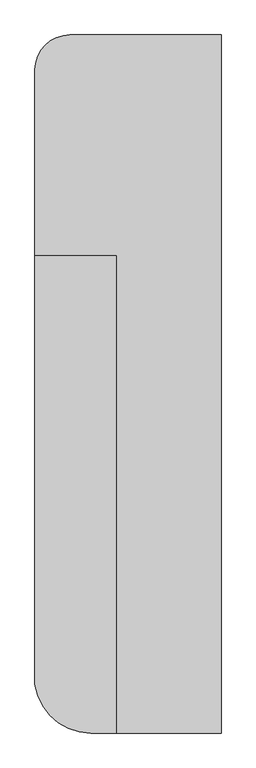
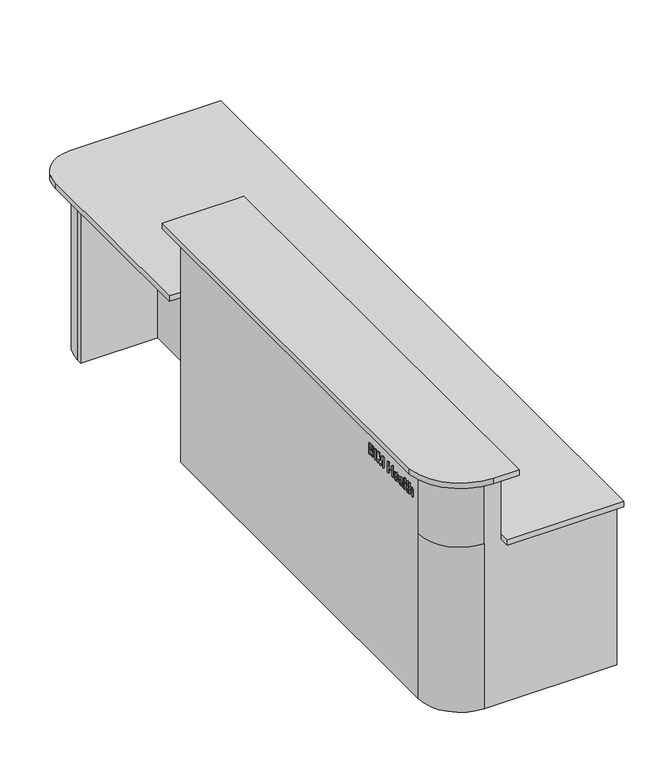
"""IFC4 building model written with IfcOpenShell, lengths in millimetres: furniture geometry, BIMHealth-Desk_Nurses_Station-LOD2A-v1 : BIMHealth-Desk_Nurses_Station-LOD2A-v1."""

from ifc_helpers import new_model, si_unit, point, frame, frame_2d, origin, place, context, project, spatial, polyline, circle_curve, trimmed, segment, composite_curve, outline, extrude, source, transform, mapped, element, save
from ifc_brep_helpers import plane_surface, cylinder_surface, revolved_surface, advanced_brep


def furniture_40786aaf(model_context):
    return source(origin(), model_context, "Body", "SolidModel", [
        advanced_brep(
        [(400.0, 1450.0, 750.0), (-170.0, 1450.0, 750.0), (-350.0, 1270.0, 750.0), (-350.0, 1245.0, 750.0), (-20.0, 1245.0, 750.0), (-20.0, 500.0, 750.0), (-100.0, 500.0, 750.0), (-100.0, 480.0, 750.0), (0.0, 480.0, 750.0), (0.0, 1265.0, 750.0), (-325.0, 1265.0, 750.0), (-175.0, 1425.0, 750.0), (400.0, 1425.0, 750.0), (400.0, -1450.0, 750.0), (400.0, -1425.0, 750.0), (-100.0, -1425.0, 750.0), (-100.0, -1450.0, 750.0), (400.0, 1450.0, 0.0), (400.0, 1425.0, 0.0), (-175.0, 1425.0, 0.0), (-325.0, 1265.0, 0.0), (0.0, 1265.0, 0.0), (0.0, 480.0, 0.0), (-325.0, 480.0, 0.0), (-325.0, -1265.0, 0.0), (-175.0, -1425.0, 0.0), (400.0, -1425.0, 0.0), (400.0, -1450.0, 0.0), (-170.0, -1450.0, 0.0), (-350.0, -1270.0, 0.0), (-350.0, 500.0, 0.0), (-20.0, 500.0, 0.0), (-20.0, 1245.0, 0.0), (-350.0, 1245.0, 0.0), (-350.0, 1270.0, 0.0), (-170.0, 1450.0, 0.0), (-170.0, -1450.0, 750.0), (-350.0, -1270.0, 750.0), (-100.0, -1450.0, 1050.0), (-170.0, -1450.0, 1050.0), (-175.0, -1425.0, 750.0), (-325.0, -1265.0, 750.0), (-325.0, 480.0, 1050.0), (-325.0, -1200.0, 1050.0), (-325.0, -1200.0, 750.0), (-350.0, 500.0, 1050.0), (-350.0, -1270.0, 1050.0), (-100.0, -1200.0, 1050.0), (-100.0, 480.0, 1050.0), (-100.0, 500.0, 1050.0), (-100.0, -1200.0, 750.0)],
        [
            (0, 1),
            (1, 2, circle_curve(frame((-170.0, 1270.0, 750.0), z_axis=(0.0, 0.0, 1.0), x_axis=(1.0, 0.0, 0.0)), 180.0)),
            (2, 3),
            (3, 4),
            (4, 5),
            (5, 6),
            (6, 7),
            (7, 8),
            (8, 9),
            (9, 10),
            (10, 11, circle_curve(frame((-164.6666667, 1265.0, 750.0), z_axis=(0.0, 0.0, -1.0), x_axis=(1.0, 0.0, 0.0)), 160.3333333)),
            (11, 12),
            (12, 0),
            (13, 14),
            (14, 15),
            (15, 16),
            (16, 13),
            (17, 18),
            (18, 19),
            (19, 20, circle_curve(frame((-164.6666667, 1265.0, 0.0), z_axis=(0.0, 0.0, 1.0), x_axis=(1.0, 0.0, 0.0)), 160.3333333)),
            (20, 21),
            (21, 22),
            (22, 23),
            (23, 24),
            (24, 25, circle_curve(frame((-164.6666667, -1265.0, 0.0), z_axis=(0.0, 0.0, 1.0), x_axis=(1.0, 0.0, 0.0)), 160.3333333)),
            (25, 26),
            (26, 27),
            (27, 28),
            (28, 29, circle_curve(frame((-170.0, -1270.0, 0.0), z_axis=(0.0, 0.0, -1.0), x_axis=(1.0, 0.0, 0.0)), 180.0)),
            (29, 30),
            (30, 31),
            (31, 32),
            (32, 33),
            (33, 34),
            (34, 35, circle_curve(frame((-170.0, 1270.0, 0.0), z_axis=(0.0, 0.0, -1.0), x_axis=(1.0, 0.0, 0.0)), 180.0)),
            (35, 17),
            (0, 17),
            (35, 1),
            (34, 2),
            (28, 36),
            (36, 37, circle_curve(frame((-170.0, -1270.0, 750.0), z_axis=(0.0, 0.0, -1.0), x_axis=(1.0, 0.0, 0.0)), 180.0)),
            (37, 29),
            (27, 13),
            (16, 38),
            (38, 39),
            (39, 36),
            (26, 14),
            (25, 40),
            (40, 15),
            (24, 41),
            (41, 40, circle_curve(frame((-164.6666667, -1265.0, 750.0), z_axis=(0.0, 0.0, 1.0), x_axis=(1.0, 0.0, 0.0)), 160.3333333)),
            (42, 43),
            (43, 44),
            (44, 41),
            (23, 42),
            (10, 20),
            (19, 11),
            (18, 12),
            (45, 46),
            (46, 39, circle_curve(frame((-170.0, -1270.0, 1050.0), z_axis=(0.0, 0.0, 1.0), x_axis=(1.0, 0.0, 0.0)), 180.0)),
            (38, 47),
            (47, 43),
            (42, 48),
            (48, 49),
            (49, 45),
            (44, 50),
            (50, 15),
            (46, 37),
            (45, 30),
            (33, 3),
            (32, 4),
            (31, 5),
            (49, 6),
            (22, 8),
            (7, 48),
            (21, 9),
            (50, 47),
        ],
        [
            plane_surface(frame((-290.0, 1450.0, 750.0), z_axis=(0.0, 0.0, 1.0), x_axis=(-1.0, 0.0, 0.0))),
            plane_surface(frame((-290.0, 1450.0, 0.0), z_axis=(0.0, 0.0, -1.0), x_axis=(1.0, 0.0, 0.0))),
            plane_surface(frame((400.0, 1450.0, 750.0), z_axis=(0.0, 1.0, 0.0), x_axis=(0.0, 0.0, -1.0))),
            cylinder_surface(frame((-170.0, 1270.0, 0.0), z_axis=(0.0, 0.0, 1.0), x_axis=(1.0, 0.0, 0.0)), 180.0),
            cylinder_surface(frame((-170.0, -1270.0, 0.0), z_axis=(0.0, 0.0, 1.0), x_axis=(1.0, 0.0, 0.0)), 180.0),
            plane_surface(frame((-170.0, -1450.0, 750.0), z_axis=(0.0, -1.0, 0.0), x_axis=(0.0, 0.0, -1.0))),
            plane_surface(frame((400.0, -1450.0, 750.0), z_axis=(1.0, 0.0, 0.0), x_axis=(0.0, 0.0, -1.0))),
            plane_surface(frame((400.0, -1425.0, 750.0), z_axis=(0.0, 1.0, 0.0), x_axis=(0.0, 0.0, -1.0))),
            revolved_surface(polyline([(-4.333333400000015, -1265.0, 0.0), (-4.333333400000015, -1265.0, 750.0)]), (-164.6666667, -1265.0, 0.0), (0.0, 0.0, -1.0)),
            plane_surface(frame((-325.0, -1265.0, 750.0), z_axis=(1.0, 0.0, 0.0), x_axis=(0.0, 0.0, -1.0))),
            revolved_surface(polyline([(-4.333333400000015, 1265.0, 0.0), (-4.333333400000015, 1265.0, 750.0)]), (-164.6666667, 1265.0, 0.0), (0.0, 0.0, -1.0)),
            plane_surface(frame((-175.0, 1425.0, 750.0), z_axis=(0.0, -1.0, 0.0), x_axis=(0.0, 0.0, -1.0))),
            plane_surface(frame((400.0, 1425.0, 750.0), z_axis=(1.0, 0.0, 0.0), x_axis=(0.0, 0.0, -1.0))),
            plane_surface(frame((-350.0, 500.0, 1050.0), z_axis=(0.0, 0.0, 1.0), x_axis=(0.0, -1.0, 0.0))),
            plane_surface(frame((-350.0, 500.0, 750.0), z_axis=(0.0, 0.0, -1.0), x_axis=(0.0, 1.0, 0.0))),
            cylinder_surface(frame((-170.0, -1270.0, 750.0), z_axis=(0.0, 0.0, 1.0), x_axis=(1.0, 0.0, 0.0)), 180.0),
            plane_surface(frame((-350.0, 500.0, 750.0), z_axis=(-1.0, 0.0, 0.0), x_axis=(0.0, 0.0, -1.0))),
            plane_surface(frame((-350.0, 1270.0, 750.0), z_axis=(-1.0, 0.0, 0.0), x_axis=(0.0, 0.0, -1.0))),
            plane_surface(frame((-350.0, 1245.0, 750.0), z_axis=(0.0, -1.0, 0.0), x_axis=(0.0, 0.0, -1.0))),
            plane_surface(frame((-20.0, 1245.0, 750.0), z_axis=(-1.0, 0.0, 0.0), x_axis=(0.0, 0.0, -1.0))),
            plane_surface(frame((-20.0, 500.0, 750.0), z_axis=(0.0, 1.0, 0.0), x_axis=(0.0, 0.0, -1.0))),
            plane_surface(frame((-325.0, 480.0, 750.0), z_axis=(0.0, -1.0, 0.0), x_axis=(0.0, 0.0, -1.0))),
            plane_surface(frame((0.0, 480.0, 750.0), z_axis=(1.0, 0.0, 0.0), x_axis=(0.0, 0.0, -1.0))),
            plane_surface(frame((0.0, 1265.0, 750.0), z_axis=(0.0, 1.0, 0.0), x_axis=(0.0, 0.0, -1.0))),
            plane_surface(frame((-100.0, -1450.0, 1050.0), z_axis=(1.0, 0.0, 0.0), x_axis=(0.0, 0.0, -1.0))),
            plane_surface(frame((-100.0, -1200.0, 1050.0), z_axis=(0.0, 1.0, 0.0), x_axis=(0.0, 0.0, -1.0))),
            plane_surface(frame((-100.0, 480.0, 1050.0), z_axis=(1.0, 0.0, 0.0), x_axis=(0.0, 0.0, -1.0))),
        ],
        [
            (0, [[1, 2, 3, 4, 5, 6, 7, 8, 9, 10, 11, 12, 13]]),
            (0, [[14, 15, 16, 17]]),
            (1, [[18, 19, 20, 21, 22, 23, 24, 25, 26, 27, 28, 29, 30, 31, 32, 33, 34, 35, 36]]),
            (2, [[-1, 37, -36, 38]]),
            (3, [[-2, -38, -35, 39]]),
            (4, [[-29, 40, 41, 42]]),
            (5, [[-28, 43, -17, 44, 45, 46, -40]]),
            (6, [[-14, -43, -27, 47]]),
            (7, [[-26, 48, 49, -15, -47]]),
            (8, [[-25, 50, 51, -48]]),
            (9, [[52, 53, 54, -50, -24, 55]]),
            (10, [[-11, 56, -20, 57]]),
            (11, [[-12, -57, -19, 58]]),
            (12, [[-13, -58, -18, -37]]),
            (13, [[59, 60, -45, 61, 62, -52, 63, 64, 65]]),
            (14, [[66, 67, -49, -51, -54]]),
            (15, [[-60, 68, -41, -46]]),
            (16, [[-30, -42, -68, -59, 69]]),
            (17, [[-3, -39, -34, 70]]),
            (18, [[-4, -70, -33, 71]]),
            (19, [[-5, -71, -32, 72]]),
            (20, [[-31, -69, -65, 73, -6, -72]]),
            (21, [[-55, -23, 74, -8, 75, -63]]),
            (22, [[-9, -74, -22, 76]]),
            (23, [[-10, -76, -21, -56]]),
            (24, [[-61, -44, -16, -67, 77]]),
            (25, [[-62, -77, -66, -53]]),
            (26, [[-64, -75, -7, -73]]),
        ],
    ),
        extrude(outline(polyline([(-907.3739492, 895.9796557), (-926.0157761, 895.9796557), (-933.9064011, 896.8270115), (-939.2609685, 899.3270115), (-942.8487088, 904.0385499), (-944.2970261, 910.6551365), (-942.1756319, 918.3113865), (-936.11193, 922.9027326), (-941.1059204, 927.2597038), (-942.7585646, 933.0109057), (-940.7934204, 939.3089826), (-935.3607281, 943.7621076), (-926.1600069, 945.2104249), (-907.3739492, 945.2104249), (-907.3739492, 895.9796557)]), holes=[polyline([(-913.5277954, 925.2104249), (-913.5277954, 939.0565788), (-923.9124108, 939.0565788), (-931.8210646, 938.4135499), (-935.3667377, 936.0397519), (-936.6047185, 932.0253288), (-935.2765935, 928.0169153), (-931.3282761, 925.7392711), (-924.7657761, 925.2104249), (-913.5277954, 925.2104249)]), polyline([(-913.5277954, 902.1335019), (-913.5277954, 919.0565788), (-925.5470261, 919.0565788), (-933.1491896, 918.2332615), (-936.9652954, 915.3786942), (-938.14318, 910.5950403), (-937.1395742, 906.4484057), (-934.5794781, 903.7140307), (-930.7152954, 902.3738865), (-926.1479877, 902.1335019), (-913.5277954, 902.1335019)])]), frame((-355.0, 0.0, 0.0), z_axis=(1.0, 0.0, 0.0), x_axis=(0.0, 1.0, 0.0)), (0.0, 0.0, 1.0), 5.0),
        extrude(outline(polyline([(-355.0, -959.6816415), (-355.0, -953.5277954), (-350.0, -953.5277954), (-350.0, -959.6816415), (-355.0, -959.6816415)])), frame((0.0, 0.0, 895.9796557), z_axis=(0.0, 0.0, 1.0), x_axis=(1.0, 0.0, 0.0)), (0.0, 0.0, 1.0), 49.2307692),
        extrude(outline(polyline([(-971.9893338, 895.9796557), (-978.14318, 895.9796557), (-978.14318, 939.0565788), (-990.5229877, 895.9796557), (-998.8523146, 895.9796557), (-1011.2201031, 939.0565788), (-1011.2201031, 895.9796557), (-1017.3739492, 895.9796557), (-1017.3739492, 945.2104249), (-1006.7850069, 945.2104249), (-996.8811608, 911.1118672), (-994.6816415, 903.2633095), (-992.6383723, 910.5109057), (-982.5422185, 945.2104249), (-971.9893338, 945.2104249), (-971.9893338, 895.9796557)])), frame((-355.0, 0.0, 0.0), z_axis=(1.0, 0.0, 0.0), x_axis=(0.0, 1.0, 0.0)), (0.0, 0.0, 1.0), 5.0),
        extrude(outline(polyline([(-1047.3739492, 895.9796557), (-1053.5277954, 895.9796557), (-1053.5277954, 919.0565788), (-1079.6816415, 919.0565788), (-1079.6816415, 895.9796557), (-1085.8354877, 895.9796557), (-1085.8354877, 945.2104249), (-1079.6816415, 945.2104249), (-1079.6816415, 925.2104249), (-1053.5277954, 925.2104249), (-1053.5277954, 945.2104249), (-1047.3739492, 945.2104249), (-1047.3739492, 895.9796557)])), frame((-355.0, 0.0, 0.0), z_axis=(1.0, 0.0, 0.0), x_axis=(0.0, 1.0, 0.0)), (0.0, 0.0, 1.0), 5.0),
        extrude(outline(polyline([(-1121.1479877, 906.7488865), (-1117.1816415, 902.6503288), (-1111.1479877, 901.3642711), (-1103.221305, 904.1407134), (-1099.6816415, 912.1335019), (-1127.3378915, 912.1335019), (-1127.3739492, 913.7921557), (-1122.7044781, 927.8907134), (-1110.6792377, 932.9027326), (-1098.29943, 927.8786942), (-1093.5277954, 913.756098), (-1098.2513531, 900.084223), (-1111.0277954, 895.2104249), (-1121.5386127, 898.0349442), (-1127.1816415, 905.9796557), (-1121.1479877, 906.7488865)]), holes=[polyline([(-1099.6816415, 918.287348), (-1103.0770742, 924.4472038), (-1110.6551992, 926.7488865), (-1118.7561608, 923.8642711), (-1121.2201031, 918.287348), (-1099.6816415, 918.287348)])]), frame((-355.0, 0.0, 0.0), z_axis=(1.0, 0.0, 0.0), x_axis=(0.0, 1.0, 0.0)), (0.0, 0.0, 1.0), 5.0),
        extrude(outline(polyline([(-1156.6047185, 900.5950403), (-1158.14318, 895.9796557), (-1164.2970261, 895.9796557), (-1163.0710646, 901.1539345), (-1162.7585646, 911.8450403), (-1162.7585646, 919.5012903), (-1162.4580838, 924.8859057), (-1160.5710646, 929.0625884), (-1156.3583242, 931.8089826), (-1148.9003915, 932.9027326), (-1140.7814011, 931.6647519), (-1135.4208242, 928.1431172), (-1132.7585646, 922.1335019), (-1138.9124108, 921.3642711), (-1141.8811608, 925.5649922), (-1148.1071223, 926.7488865), (-1154.9100069, 924.9700403), (-1156.5686608, 919.0565788), (-1145.8955838, 916.9411942), (-1140.5710646, 916.0157134), (-1136.2621704, 913.9964826), (-1133.1672185, 910.4628288), (-1131.9893338, 905.5950403), (-1135.1083242, 898.131098), (-1144.0446223, 895.2104249), (-1150.6371704, 896.4243672), (-1156.6047185, 900.5950403)]), holes=[polyline([(-1156.6047185, 912.9027326), (-1156.5686608, 911.1599442), (-1155.5951031, 906.4003288), (-1151.58068, 902.8366269), (-1145.3547185, 901.3642711), (-1139.9761127, 902.6984057), (-1138.14318, 906.0277326), (-1138.9845261, 908.3955211), (-1141.3823627, 910.0181172), (-1146.6768338, 911.0157134), (-1156.6047185, 912.9027326)])]), frame((-355.0, 0.0, 0.0), z_axis=(1.0, 0.0, 0.0), x_axis=(0.0, 1.0, 0.0)), (0.0, 0.0, 1.0), 5.0),
        extrude(outline(polyline([(-355.0, -1177.3739492), (-355.0, -1171.2201031), (-350.0, -1171.2201031), (-350.0, -1177.3739492), (-355.0, -1177.3739492)])), frame((0.0, 0.0, 895.9796557), z_axis=(0.0, 0.0, 1.0), x_axis=(1.0, 0.0, 0.0)), (0.0, 0.0, 1.0), 49.2307692),
        extrude(outline(polyline([(-1199.6816415, 901.1118672), (-1197.0013531, 901.3642711), (-1193.8523146, 902.9027326), (-1193.5277954, 906.0758095), (-1193.5277954, 925.9796557), (-1199.6816415, 925.9796557), (-1199.6816415, 932.1335019), (-1193.5277954, 932.1335019), (-1193.5277954, 944.537348), (-1187.3739492, 940.9195595), (-1187.3739492, 932.1335019), (-1182.7585646, 932.1335019), (-1182.7585646, 925.9796557), (-1187.3739492, 925.9796557), (-1187.3739492, 905.8955211), (-1188.1191415, 898.912348), (-1190.6912569, 896.2320595), (-1195.8475069, 895.2104249), (-1200.4508723, 895.7993672), (-1199.6816415, 901.1118672)])), frame((-355.0, 0.0, 0.0), z_axis=(1.0, 0.0, 0.0), x_axis=(0.0, 1.0, 0.0)), (0.0, 0.0, 1.0), 5.0),
        extrude(outline(polyline([(-1205.8354877, 895.9796557), (-1211.9893338, 895.9796557), (-1211.9893338, 915.1863865), (-1212.9929396, 921.6647519), (-1216.3583242, 925.3786942), (-1221.4003915, 926.7488865), (-1226.9532761, 924.7176365), (-1228.9124108, 918.2272519), (-1228.9124108, 895.9796557), (-1235.0662569, 895.9796557), (-1235.0662569, 918.8642711), (-1233.8042377, 926.9532134), (-1229.6095261, 931.3222038), (-1222.6984685, 932.9027326), (-1211.9893338, 927.1094634), (-1211.9893338, 945.2104249), (-1205.8354877, 945.2104249), (-1205.8354877, 895.9796557)])), frame((-355.0, 0.0, 0.0), z_axis=(1.0, 0.0, 0.0), x_axis=(0.0, 1.0, 0.0)), (0.0, 0.0, 1.0), 5.0),
        extrude(outline(composite_curve([segment(polyline([(-100.0, 550.0), (-50.0, 550.0), (-50.0, -1500.0), (-160.0, -1500.0)]), True, "CONTINUOUS"), segment(trimmed(circle_curve(frame_2d((-160.0, -1257.8571429)), 242.1428571), [point((-160.0, -1500.0))], [point((-400.0, -1290.0))], False, "CARTESIAN"), True, "CONTINUOUS"), segment(polyline([(-400.0, -1290.0), (-400.0, 550.0), (-350.0, 550.0), (-100.0, 550.0)]), True, "CONTINUOUS")], self_intersect=False)), frame((0.0, 0.0, 1050.0), z_axis=(0.0, 0.0, 1.0), x_axis=(1.0, 0.0, 0.0)), (0.0, 0.0, 1.0), 25.0),
        extrude(outline(composite_curve([segment(polyline([(400.0, -1450.0), (400.0, -1500.0), (-100.0, -1500.0), (-100.0, -1425.0), (-165.0, -1425.0)]), True, "CONTINUOUS"), segment(trimmed(circle_curve(frame_2d((-165.0, -1265.0)), 160.0), [point((-165.0, -1425.0))], [point((-325.0, -1265.0))], False, "CARTESIAN"), True, "CONTINUOUS"), segment(polyline([(-325.0, -1265.0), (-325.0, 480.0), (-100.0, 480.0), (-100.0, 500.0), (-350.0, 500.0), (-400.0, 500.0), (-400.0, 1350.0)]), True, "CONTINUOUS"), segment(trimmed(circle_curve(frame_2d((-250.0, 1350.0)), 150.0), [point((-400.0, 1350.0))], [point((-250.0, 1500.0))], False, "CARTESIAN"), True, "CONTINUOUS"), segment(polyline([(-250.0, 1500.0), (400.0, 1500.0), (400.0, -1450.0)]), True, "CONTINUOUS")], self_intersect=False)), frame((0.0, 0.0, 750.0), z_axis=(0.0, 0.0, 1.0), x_axis=(1.0, 0.0, 0.0)), (0.0, 0.0, 1.0), 25.0),
    ])


if __name__ == "__main__":
    model = new_model("IFC4")
    model_context = context("Model", 3, world=origin())
    ifc_project = project(units=[si_unit("LENGTHUNIT", "METRE", prefix="MILLI")], contexts=[model_context])
    site = spatial("IfcSite", under=ifc_project)
    building = spatial("IfcBuilding", under=site)
    placement = place(None, origin())
    furniture_shape = furniture_40786aaf(model_context)
    element("IfcFurniture", 1, ObjectType="BIMHealth-Desk_Nurses_Station-LOD2A-v1 : BIMHealth-Desk_Nurses_Station-LOD2A-v1", at=placement, inside=building, context=model_context, shape_type="MappedRepresentation", body=[
        mapped(furniture_shape, transform((0.0, 0.0, 0.0), x_axis=(1.0, 0.0, 0.0), y_axis=(0.0, 1.0, 0.0), z_axis=(0.0, 0.0, 1.0))),
    ])
    save(model, "model.ifc")
